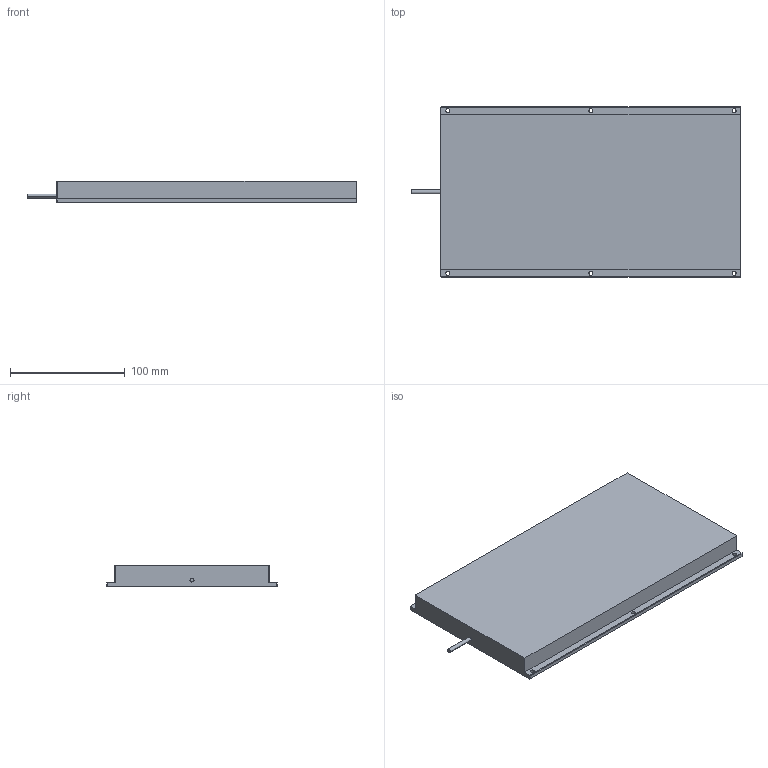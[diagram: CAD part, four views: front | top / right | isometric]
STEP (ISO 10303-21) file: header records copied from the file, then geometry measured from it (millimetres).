
FILE_DESCRIPTION((''),'2;1');
FILE_NAME('MV-LBSS-250-125','2022-02-15T',('rsee'),(''),'PRO/ENGINEER BY PARAMETRIC TECHNOLOGY CORPORATION, 2010100','PRO/ENGINEER BY PARAMETRIC TECHNOLOGY CORPORATION, 2010100','');
FILE_SCHEMA(('CONFIG_CONTROL_DESIGN'));
Length unit declared in the file: millimetre
Products named in the file (1): MV-LBSS-250-125
Bounding box: 288 x 149 x 19 mm (x, y, z)
Volume: 686581.1 mm3; surface area: 93378.3 mm2
Topology: 1 solids, 1 shells, 37 faces, 94 edges, 60 vertices
Faces by surface type: plane 23, cylinder 14
Entity records: 1174 total; most frequent: DIRECTION 196, CARTESIAN_POINT 191, ORIENTED_EDGE 188, EDGE_CURVE 94, VECTOR 66, LINE 66, AXIS2_PLACEMENT_3D 65, VERTEX_POINT 60
